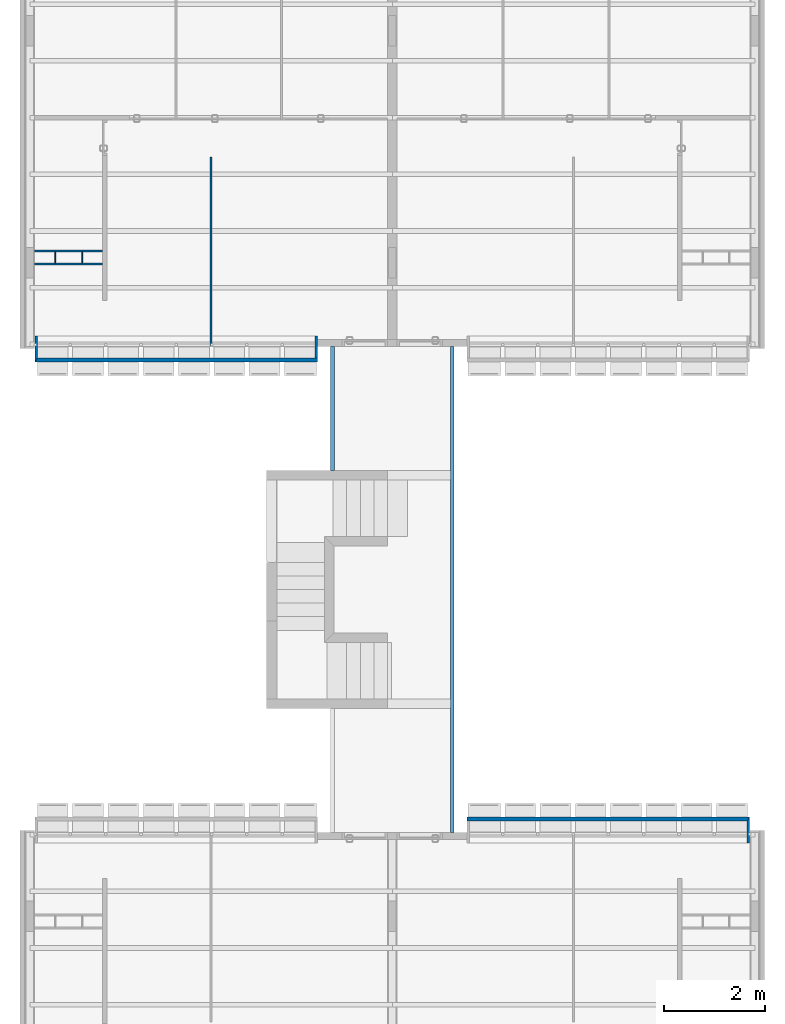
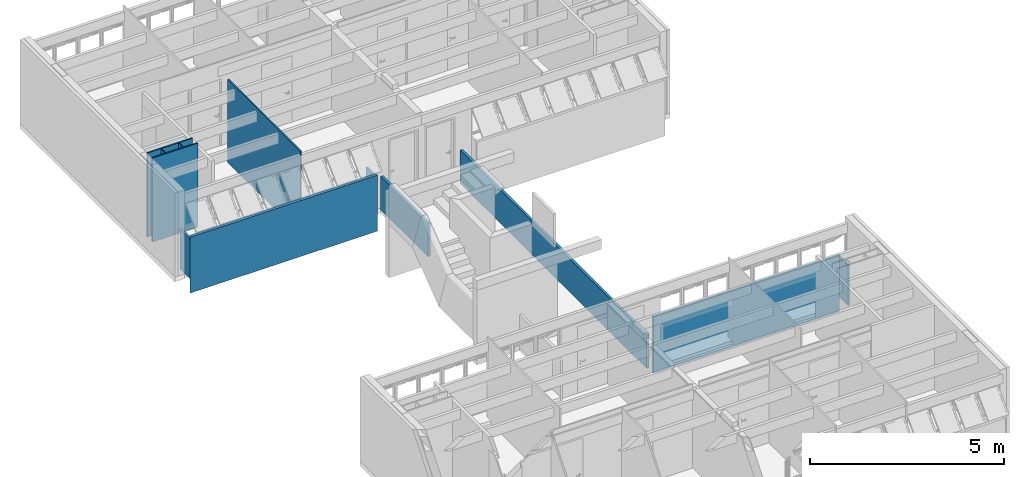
# One storey, part 30 of 41: 12 walls.
"""IFC4 building model written with IfcOpenShell, lengths in millimetres."""

from ifc_helpers import new_model, entity, si_unit, converted_unit, derived_unit, direction, frame, origin_with_axes, place, context, subcontext, project, spatial, line, indexed_curve, outline, extrude, material, layer, layer_set, layer_usage, type_object, element, save


model = new_model("IFC4")

# Units and contexts
model_context = context("Model", 3, precision=0.01, world=origin_with_axes(), true_north=direction((0.0, 1.0)))
body_context = subcontext(model_context, "Body", "Model", "MODEL_VIEW")
ifc_project = project(units=[si_unit("LENGTHUNIT", "METRE", prefix="MILLI"), si_unit("AREAUNIT", "SQUARE_METRE"), si_unit("VOLUMEUNIT", "CUBIC_METRE"), converted_unit("PLANEANGLEUNIT", "DEGREE", entity("IfcPlaneAngleMeasure", 0.0174532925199), si_unit("PLANEANGLEUNIT", "RADIAN"), dimensions=[0, 0, 0, 0, 0, 0, 0]), converted_unit("TIMEUNIT", "Year", entity("IfcTimeMeasure", 31556926.0), si_unit("TIMEUNIT", "SECOND"), dimensions=[0, 0, 1, 0, 0, 0, 0]), si_unit("MASSUNIT", "GRAM", prefix="KILO"), si_unit("THERMODYNAMICTEMPERATUREUNIT", "DEGREE_CELSIUS"), si_unit("LUMINOUSINTENSITYUNIT", "LUMEN"), si_unit("ENERGYUNIT", "JOULE", prefix="MEGA"), derived_unit("THERMALCONDUCTANCEUNIT", [(si_unit("POWERUNIT", "WATT"), 1), (si_unit("LENGTHUNIT", "METRE"), -1), (si_unit("THERMODYNAMICTEMPERATUREUNIT", "KELVIN"), -1)]), derived_unit("SPECIFICHEATCAPACITYUNIT", [(si_unit("ENERGYUNIT", "JOULE"), 1), (si_unit("MASSUNIT", "GRAM", prefix="KILO"), -1), (si_unit("THERMODYNAMICTEMPERATUREUNIT", "KELVIN"), -1)]), derived_unit("MASSDENSITYUNIT", [(si_unit("MASSUNIT", "GRAM", prefix="KILO"), 1), (si_unit("VOLUMEUNIT", "CUBIC_METRE"), -1)])], contexts=[model_context])

# Site, building, storey
site_placement = place(None, origin_with_axes())
site = spatial("IfcSite", under=ifc_project, at=site_placement, Name="Local", CompositionType="ELEMENT")
building_placement = place(site_placement, origin_with_axes())
building = spatial("IfcBuilding", under=site, at=building_placement, Name="Construção", CompositionType="ELEMENT")
storey_placement = place(building_placement, frame((0.0, 0.0, 2650.0), z_axis=(0.0, 0.0, 1.0), x_axis=(1.0, 0.0, 0.0)))
storey = spatial("IfcBuildingStorey", under=building, at=storey_placement, Name="Segundo Pavimento", CompositionType="ELEMENT", Elevation=2650.0)

# Walls
ifc_material_1 = material(Name="GENÉRICO - VEDAÇÃO EXTERNA")
ifc_layer_1 = layer(ifc_material_1, 40.0, ventilated="UNKNOWN", Name="GENÉRICO - VEDAÇÃO EXTERNA")
ifc_layer_set_1 = layer_set([ifc_layer_1], Name="GENÉRICO - VEDAÇÃO EXTERNA 40")
ifc_layer_usage_1 = layer_usage(ifc_layer_set_1, "AXIS2", "POSITIVE", -40.0)
wall_type_1 = type_object("IfcWallType", Name="GENÉRICO - VEDAÇÃO EXTERNA 40", PredefinedType="NOTDEFINED")
wall_1_placement = place(storey_placement, frame((3810.0, 21655.0, 0.0), z_axis=(0.0, 0.0, 1.0), x_axis=(0.0, -1.0, 0.0)))
element("IfcWall", 1, at=wall_1_placement, inside=storey, type_object=wall_type_1, material=ifc_layer_usage_1, Name="APTO7-PAREDE-003", PredefinedType="NOTDEFINED", context=body_context, shape_type="SweptSolid", body=[
    extrude(outline(indexed_curve([(0.0, -40.0), (3750.0, -40.0), (3750.0, 0.0), (0.0, 0.0)], segments=[line(1, 2, 3, 4, 1)])), origin_with_axes(), (0.0, 0.0, 1.0), 2620.0),
])
ifc_layer_usage_2 = layer_usage(ifc_layer_set_1, "AXIS2", "POSITIVE", -40.0)
wall_2_placement = place(storey_placement, frame((290.0, 19815.0, 0.0), z_axis=(0.0, 0.0, 1.0), x_axis=(1.0, 0.0, 0.0)))
element("IfcWall", 2, at=wall_2_placement, inside=storey, type_object=wall_type_1, material=ifc_layer_usage_2, Name="APTO7-PAREDE-011", PredefinedType="NOTDEFINED", context=body_context, shape_type="SweptSolid", body=[
    extrude(outline(indexed_curve([(0.0, -40.0), (1350.0, -40.0), (1350.0, 0.0), (0.0, 0.0)], segments=[line(1, 2, 3, 4, 1)])), origin_with_axes(), (0.0, 0.0, 1.0), 2650.0),
])
ifc_layer_usage_3 = layer_usage(ifc_layer_set_1, "AXIS2", "POSITIVE", -40.0)
wall_3_placement = place(storey_placement, frame((1730.0, 19515.0, 0.0), z_axis=(0.0, 0.0, 1.0), x_axis=(-1.0, 0.0, 0.0)))
element("IfcWall", 3, at=wall_3_placement, inside=storey, type_object=wall_type_1, material=ifc_layer_usage_3, Name="APTO7-PAREDE-010", PredefinedType="NOTDEFINED", context=body_context, shape_type="SweptSolid", body=[
    extrude(outline(indexed_curve([(90.0, -40.0), (1440.0, -40.0), (1440.0, 0.0), (90.0, 0.0)], segments=[line(1, 2, 3, 4, 1)])), origin_with_axes(), (0.0, 0.0, 1.0), 2650.0),
])
ifc_material_2 = material(Name="Concreto Armado Moldado in Loco - Estrutural")
ifc_layer_2 = layer(ifc_material_2, 50.0, ventilated="UNKNOWN", Name="Concreto Armado Moldado in Loco - Estrutural")
ifc_layer_set_2 = layer_set([ifc_layer_2], Name="Concreto Armado Moldado in Loco - Estrutural 50")
ifc_layer_usage_4 = layer_usage(ifc_layer_set_2, "AXIS2", "NEGATIVE", 50.0)
wall_type_2 = type_object("IfcWallType", Name="Concreto Armado Moldado in Loco - Estrutural 50", PredefinedType="NOTDEFINED")
wall_4_placement = place(storey_placement, frame((14470.0, 8054.99999866, 0.0), z_axis=(0.0, 0.0, 1.0), x_axis=(0.0, 1.0, 0.0)))
element("IfcWall", 4, at=wall_4_placement, inside=storey, type_object=wall_type_2, material=ifc_layer_usage_4, Name="APTO6-PAREDE-018", PredefinedType="NOTDEFINED", context=body_context, shape_type="SweptSolid", body=[
    extrude(outline(indexed_curve([(0.0, 0.0), (510.0, 0.0), (430.0, 50.0), (0.0, 50.0)], segments=[line(1, 2, 3, 4, 1)])), origin_with_axes(), (0.0, 0.0, 1.0), 1270.0),
])
ifc_layer_usage_5 = layer_usage(ifc_layer_set_2, "AXIS2", "NEGATIVE", 50.0)
wall_5_placement = place(storey_placement, frame((5850.0, 18105.0000013, 0.0), z_axis=(0.0, 0.0, 1.0), x_axis=(0.0, -1.0, 0.0)))
element("IfcWall", 5, at=wall_5_placement, inside=storey, type_object=wall_type_2, material=ifc_layer_usage_5, Name="APTO7-PAREDE-016", PredefinedType="NOTDEFINED", context=body_context, shape_type="SweptSolid", body=[
    extrude(outline(indexed_curve([(0.0, 0.0), (435.0, 0.0), (435.0, 50.0), (0.0, 50.0)], segments=[line(1, 2, 3, 4, 1)])), origin_with_axes(), (0.0, 0.0, 1.0), 1270.0),
])
ifc_layer_usage_6 = layer_usage(ifc_layer_set_2, "AXIS2", "NEGATIVE", 50.0)
wall_6_placement = place(storey_placement, frame((300.0, 18105.0000013, 0.0), z_axis=(0.0, 0.0, 1.0), x_axis=(0.0, -1.0, 0.0)))
element("IfcWall", 6, at=wall_6_placement, inside=storey, type_object=wall_type_2, material=ifc_layer_usage_6, Name="APTO7-PAREDE-018", PredefinedType="NOTDEFINED", context=body_context, shape_type="SweptSolid", body=[
    extrude(outline(indexed_curve([(0.0, 0.0), (510.0, 0.0), (430.0, 50.0), (0.0, 50.0)], segments=[line(1, 2, 3, 4, 1)])), origin_with_axes(), (0.0, 0.0, 1.0), 1270.0),
])
ifc_layer_3 = layer(ifc_material_1, 20.0, ventilated="UNKNOWN", Name="GENÉRICO - VEDAÇÃO EXTERNA")
ifc_layer_set_3 = layer_set([ifc_layer_3], Name="GENÉRICO - VEDAÇÃO EXTERNA 20")
ifc_layer_usage_7 = layer_usage(ifc_layer_set_3, "AXIS2", "POSITIVE", -20.0)
wall_type_3 = type_object("IfcWallType", Name="GENÉRICO - VEDAÇÃO EXTERNA 20", PredefinedType="NOTDEFINED")
wall_7_placement = place(storey_placement, frame((710.0, 19815.0, 0.0), z_axis=(0.0, 0.0, 1.0), x_axis=(0.0, -1.0, 0.0)))
element("IfcWall", 7, at=wall_7_placement, inside=storey, type_object=wall_type_3, material=ifc_layer_usage_7, Name="APTO7-PAREDE-009", PredefinedType="NOTDEFINED", context=body_context, shape_type="SweptSolid", body=[
    extrude(outline(indexed_curve([(40.0, -20.0), (260.0, -20.0), (260.0, 0.0), (40.0, 0.0)], segments=[line(1, 2, 3, 4, 1)])), origin_with_axes(), (0.0, 0.0, 1.0), 2650.0),
])
ifc_layer_usage_8 = layer_usage(ifc_layer_set_3, "AXIS2", "POSITIVE", 0.0)
wall_8_placement = place(storey_placement, frame((1240.0, 19515.0, 0.0), z_axis=(0.0, 0.0, 1.0), x_axis=(0.0, 1.0, 0.0)))
element("IfcWall", 8, at=wall_8_placement, inside=storey, type_object=wall_type_3, material=ifc_layer_usage_8, Name="APTO7-PAREDE-008", PredefinedType="NOTDEFINED", context=body_context, shape_type="SweptSolid", body=[
    extrude(outline(indexed_curve([(40.0, 0.0), (260.0, 0.0), (260.0, 20.0), (40.0, 20.0)], segments=[line(1, 2, 3, 4, 1)])), origin_with_axes(), (0.0, 0.0, 1.0), 2650.0),
])
ifc_layer_4 = layer(ifc_material_1, 75.0, ventilated="UNKNOWN", Name="GENÉRICO - VEDAÇÃO EXTERNA")
ifc_layer_set_4 = layer_set([ifc_layer_4], Name="GENÉRICO - VEDAÇÃO EXTERNA 75")
ifc_layer_usage_9 = layer_usage(ifc_layer_set_4, "AXIS2", "NEGATIVE", 0.0)
wall_type_4 = type_object("IfcWallType", Name="GENÉRICO - VEDAÇÃO EXTERNA 75", PredefinedType="NOTDEFINED")
wall_9_placement = place(storey_placement, frame((8610.0, 17895.0, -50.0), z_axis=(0.0, 0.0, 1.0), x_axis=(0.0, -1.0, 0.0)))
element("IfcWall", 9, at=wall_9_placement, inside=storey, type_object=wall_type_4, material=ifc_layer_usage_9, Name="CIRC2-PAREDE-027", PredefinedType="NOTDEFINED", context=body_context, shape_type="SweptSolid", body=[
    extrude(outline(indexed_curve([(0.0, -75.0), (9630.00000134, -75.0), (9630.00000134, 0.0), (0.0, 0.0)], segments=[line(1, 2, 3, 4, 1)])), origin_with_axes(), (0.0, 0.0, 1.0), 1050.0),
])
ifc_layer_usage_10 = layer_usage(ifc_layer_set_4, "AXIS2", "NEGATIVE", 0.0)
wall_10_placement = place(storey_placement, frame((6160.0, 15440.0, -50.0), z_axis=(0.0, 0.0, 1.0), x_axis=(0.0, 1.0, 0.0)))
element("IfcWall", 10, at=wall_10_placement, inside=storey, type_object=wall_type_4, material=ifc_layer_usage_10, Name="CIRC2-PAREDE-028", PredefinedType="NOTDEFINED", context=body_context, shape_type="SweptSolid", body=[
    extrude(outline(indexed_curve([(0.0, -75.0), (2455.0, -75.0), (2455.0, 0.0), (0.0, 0.0)], segments=[line(1, 2, 3, 4, 1)])), origin_with_axes(), (0.0, 0.0, 1.0), 1050.0),
])
ifc_layer_5 = layer(ifc_material_2, 80.0, ventilated="UNKNOWN", Name="Concreto Armado Moldado in Loco - Estrutural")
ifc_layer_set_5 = layer_set([ifc_layer_5], Name="Concreto Armado Moldado in Loco - Estrutural 80")
ifc_layer_usage_11 = layer_usage(ifc_layer_set_5, "AXIS2", "POSITIVE", -80.0)
wall_type_5 = type_object("IfcWallType", Name="Concreto Armado Moldado in Loco - Estrutural 80", PredefinedType="NOTDEFINED")
wall_11_placement = place(storey_placement, frame((14470.0, 8484.99999866, -450.0), z_axis=(0.0, 0.0, 1.0), x_axis=(-1.0, 0.0, 0.0)))
element("IfcWall", 11, at=wall_11_placement, inside=storey, type_object=wall_type_5, material=ifc_layer_usage_11, Name="APTO6-PAREDE-017", PredefinedType="NOTDEFINED", context=body_context, shape_type="SweptSolid", body=[
    extrude(outline(indexed_curve([(0.0, -80.0), (5600.0, -80.0), (5600.0, 0.0), (50.0, 0.0)], segments=[line(1, 2, 3, 4, 1)])), origin_with_axes(), (0.0, 0.0, 1.0), 1765.0),
])
ifc_layer_usage_12 = layer_usage(ifc_layer_set_5, "AXIS2", "POSITIVE", -80.0)
wall_12_placement = place(storey_placement, frame((300.0, 17675.0000013, -450.0), z_axis=(0.0, 0.0, 1.0), x_axis=(1.0, 0.0, 0.0)))
element("IfcWall", 12, at=wall_12_placement, inside=storey, type_object=wall_type_5, material=ifc_layer_usage_12, Name="APTO7-PAREDE-017", PredefinedType="NOTDEFINED", context=body_context, shape_type="SweptSolid", body=[
    extrude(outline(indexed_curve([(0.0, -80.0), (5600.0, -80.0), (5600.0, 0.0), (50.0, 0.0)], segments=[line(1, 2, 3, 4, 1)])), origin_with_axes(), (0.0, 0.0, 1.0), 1765.0),
])

save(model, "model.ifc")
